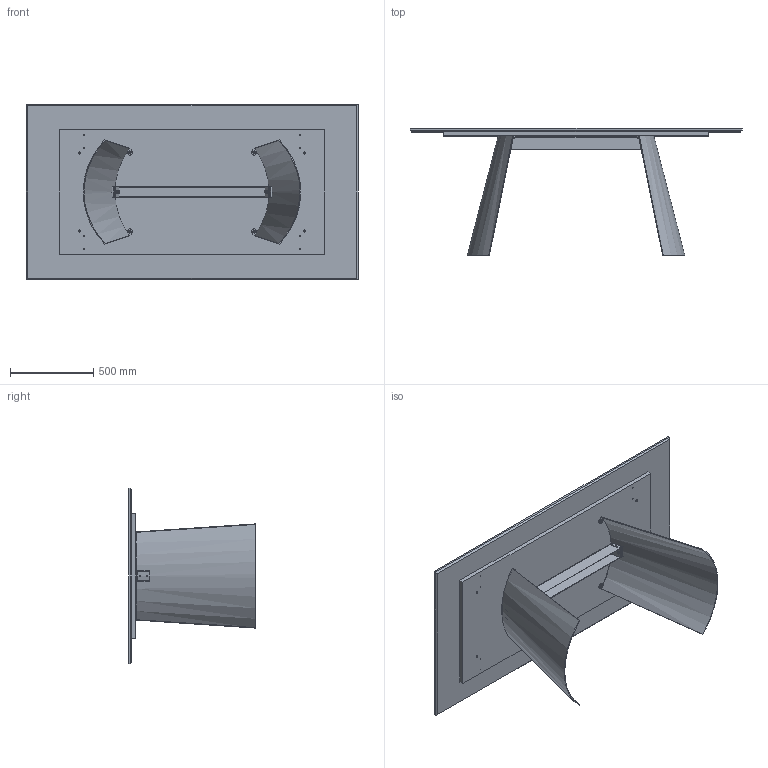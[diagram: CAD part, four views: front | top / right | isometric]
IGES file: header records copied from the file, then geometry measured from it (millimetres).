
Start section: SolidWorks IGES file using analytic representation for surfaces
Global section: file name: Y:\eforma\TECNICO\SOLIDWORKS\E-FORMA\1-TAVOLI\DORIAN\02 parts-rev 01\DN21M.IGS; native system: SolidWorks 2022; preprocessor: SolidWorks 2022; author: eforma.tech; date: 240807.165627; units: millimetre
Bounding box: 2000 x 765 x 1060 mm (x, y, z)
Volume: 77567356.8 mm3; surface area: 9232021.9 mm2
Topology: 33 solids, 33 shells, 544 faces, 1308 edges, 811 vertices
Faces by surface type: revolution 316, plane 210, bspline 18
